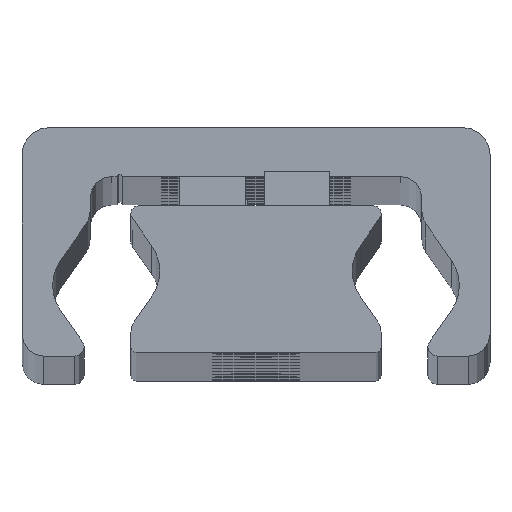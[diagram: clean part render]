
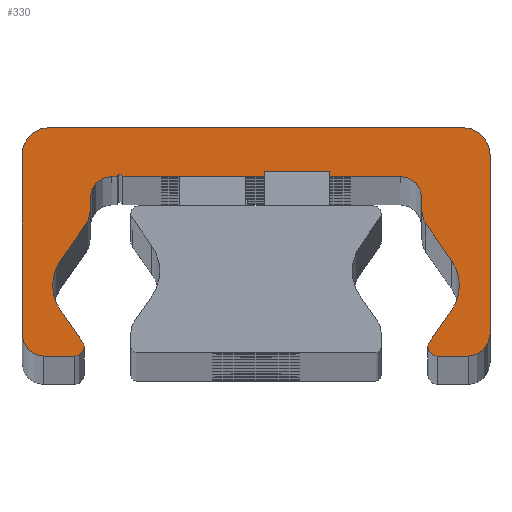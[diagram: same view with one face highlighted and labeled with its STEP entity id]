
A CAD part, top view. The second image highlights one B-rep face of the part: STEP entity #330.
In plain terms, the highlighted planar face has unit normal (0, 0, 1).
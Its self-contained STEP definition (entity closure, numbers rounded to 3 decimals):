
#330=ADVANCED_FACE('',(#944),#945,.T.);
#944=FACE_OUTER_BOUND('',#1559,.T.);
#945=PLANE('',#1560);
#1559=EDGE_LOOP('',(#3618,#3619,#3620,#3621,#3622,#3623,#3624,#3625,#3626,#3627,#3628,#3629,#3630,#3631,#3632,#3633,#3634,#3635,#3636,#3637,#3638,#3639,#3640,#3641,#3642,#3643,#3644,#3645,#3646,#3647));
#1560=AXIS2_PLACEMENT_3D('',#3648,#3649,#3650);
#3618=ORIENTED_EDGE('',*,*,#4049,.F.);
#3619=ORIENTED_EDGE('',*,*,#4342,.F.);
#3620=ORIENTED_EDGE('',*,*,#4035,.F.);
#3621=ORIENTED_EDGE('',*,*,#4341,.F.);
#3622=ORIENTED_EDGE('',*,*,#4337,.F.);
#3623=ORIENTED_EDGE('',*,*,#4334,.F.);
#3624=ORIENTED_EDGE('',*,*,#4331,.F.);
#3625=ORIENTED_EDGE('',*,*,#4328,.F.);
#3626=ORIENTED_EDGE('',*,*,#4325,.F.);
#3627=ORIENTED_EDGE('',*,*,#4322,.F.);
#3628=ORIENTED_EDGE('',*,*,#4319,.F.);
#3629=ORIENTED_EDGE('',*,*,#4316,.F.);
#3630=ORIENTED_EDGE('',*,*,#4313,.F.);
#3631=ORIENTED_EDGE('',*,*,#4310,.F.);
#3632=ORIENTED_EDGE('',*,*,#4041,.F.);
#3633=ORIENTED_EDGE('',*,*,#4308,.F.);
#3634=ORIENTED_EDGE('',*,*,#4043,.F.);
#3635=ORIENTED_EDGE('',*,*,#4307,.F.);
#3636=ORIENTED_EDGE('',*,*,#4303,.F.);
#3637=ORIENTED_EDGE('',*,*,#4300,.F.);
#3638=ORIENTED_EDGE('',*,*,#4297,.F.);
#3639=ORIENTED_EDGE('',*,*,#4294,.F.);
#3640=ORIENTED_EDGE('',*,*,#4291,.F.);
#3641=ORIENTED_EDGE('',*,*,#4288,.F.);
#3642=ORIENTED_EDGE('',*,*,#4285,.F.);
#3643=ORIENTED_EDGE('',*,*,#4282,.F.);
#3644=ORIENTED_EDGE('',*,*,#4279,.F.);
#3645=ORIENTED_EDGE('',*,*,#4276,.F.);
#3646=ORIENTED_EDGE('',*,*,#4273,.F.);
#3647=ORIENTED_EDGE('',*,*,#4270,.F.);
#3648=CARTESIAN_POINT('',(-0.023,14.187,732.0));
#3649=DIRECTION('',(0.0,0.0,1.0));
#3650=DIRECTION('',(1.0,0.0,0.0));
#4035=EDGE_CURVE('',#4902,#4905,#4906,.T.);
#4041=EDGE_CURVE('',#4915,#4911,#4917,.T.);
#4043=EDGE_CURVE('',#4918,#4921,#4922,.T.);
#4049=EDGE_CURVE('',#4931,#4927,#4933,.T.);
#4270=EDGE_CURVE('',#4927,#5288,#5289,.T.);
#4273=EDGE_CURVE('',#5288,#5293,#5294,.T.);
#4276=EDGE_CURVE('',#5293,#5298,#5299,.T.);
#4279=EDGE_CURVE('',#5298,#5303,#5304,.T.);
#4282=EDGE_CURVE('',#5303,#5308,#5309,.T.);
#4285=EDGE_CURVE('',#5308,#5313,#5314,.T.);
#4288=EDGE_CURVE('',#5313,#5318,#5319,.T.);
#4291=EDGE_CURVE('',#5318,#5323,#5324,.T.);
#4294=EDGE_CURVE('',#5323,#5328,#5329,.T.);
#4297=EDGE_CURVE('',#5328,#5333,#5334,.T.);
#4300=EDGE_CURVE('',#5333,#5338,#5339,.T.);
#4303=EDGE_CURVE('',#5338,#5343,#5344,.T.);
#4307=EDGE_CURVE('',#5343,#4918,#5349,.T.);
#4308=EDGE_CURVE('',#4921,#4915,#5350,.T.);
#4310=EDGE_CURVE('',#4911,#5352,#5353,.T.);
#4313=EDGE_CURVE('',#5352,#5357,#5358,.T.);
#4316=EDGE_CURVE('',#5357,#5362,#5363,.T.);
#4319=EDGE_CURVE('',#5362,#5367,#5368,.T.);
#4322=EDGE_CURVE('',#5367,#5372,#5373,.T.);
#4325=EDGE_CURVE('',#5372,#5377,#5378,.T.);
#4328=EDGE_CURVE('',#5377,#5382,#5383,.T.);
#4331=EDGE_CURVE('',#5382,#5387,#5388,.T.);
#4334=EDGE_CURVE('',#5387,#5392,#5393,.T.);
#4337=EDGE_CURVE('',#5392,#5397,#5398,.T.);
#4341=EDGE_CURVE('',#5397,#4902,#5403,.T.);
#4342=EDGE_CURVE('',#4905,#4931,#5404,.T.);
#4902=VERTEX_POINT('',#6138);
#4905=VERTEX_POINT('',#6142);
#4906=CIRCLE('',#6143,0.85);
#4911=VERTEX_POINT('',#6149);
#4915=VERTEX_POINT('',#6154);
#4917=CIRCLE('',#6157,0.85);
#4918=VERTEX_POINT('',#6158);
#4921=VERTEX_POINT('',#6162);
#4922=CIRCLE('',#6163,4.);
#4927=VERTEX_POINT('',#6169);
#4931=VERTEX_POINT('',#6174);
#4933=CIRCLE('',#6177,4.);
#5288=VERTEX_POINT('',#6634);
#5289=CIRCLE('',#6635,4.);
#5293=VERTEX_POINT('',#6640);
#5294=LINE('',#6641,#6642);
#5298=VERTEX_POINT('',#6648);
#5299=CIRCLE('',#6649,2.);
#5303=VERTEX_POINT('',#6654);
#5304=LINE('',#6655,#6656);
#5308=VERTEX_POINT('',#6662);
#5309=CIRCLE('',#6663,2.0);
#5313=VERTEX_POINT('',#6668);
#5314=LINE('',#6669,#6670);
#5318=VERTEX_POINT('',#6676);
#5319=CIRCLE('',#6677,0.25);
#5323=VERTEX_POINT('',#6682);
#5324=LINE('',#6683,#6684);
#5328=VERTEX_POINT('',#6690);
#5329=CIRCLE('',#6691,2.0);
#5333=VERTEX_POINT('',#6696);
#5334=LINE('',#6697,#6698);
#5338=VERTEX_POINT('',#6704);
#5339=CIRCLE('',#6705,2.0);
#5343=VERTEX_POINT('',#6710);
#5344=LINE('',#6711,#6712);
#5349=CIRCLE('',#6719,4.);
#5350=LINE('',#6720,#6721);
#5352=VERTEX_POINT('',#6724);
#5353=CIRCLE('',#6725,0.85);
#5357=VERTEX_POINT('',#6730);
#5358=LINE('',#6731,#6732);
#5362=VERTEX_POINT('',#6738);
#5363=CIRCLE('',#6739,2.);
#5367=VERTEX_POINT('',#6744);
#5368=LINE('',#6745,#6746);
#5372=VERTEX_POINT('',#6752);
#5373=CIRCLE('',#6753,2.5);
#5377=VERTEX_POINT('',#6758);
#5378=LINE('',#6759,#6760);
#5382=VERTEX_POINT('',#6766);
#5383=CIRCLE('',#6767,2.5);
#5387=VERTEX_POINT('',#6772);
#5388=LINE('',#6773,#6774);
#5392=VERTEX_POINT('',#6780);
#5393=CIRCLE('',#6781,2.);
#5397=VERTEX_POINT('',#6786);
#5398=LINE('',#6787,#6788);
#5403=CIRCLE('',#6795,0.85);
#5404=LINE('',#6796,#6797);
#6138=CARTESIAN_POINT('',(15.8,1.859,732.0));
#6142=CARTESIAN_POINT('',(15.922,2.298,732.0));
#6143=AXIS2_PLACEMENT_3D('',#7503,#7504,#7505);
#6149=CARTESIAN_POINT('',(-15.8,1.859,732.0));
#6154=CARTESIAN_POINT('',(-15.922,2.298,732.0));
#6157=AXIS2_PLACEMENT_3D('',#7515,#7516,#7517);
#6158=CARTESIAN_POINT('',(-18.688,7.509,732.0));
#6162=CARTESIAN_POINT('',(-17.964,5.214,732.0));
#6163=AXIS2_PLACEMENT_3D('',#7519,#7520,#7521);
#6169=CARTESIAN_POINT('',(18.688,7.509,732.0));
#6174=CARTESIAN_POINT('',(17.964,5.214,732.0));
#6177=AXIS2_PLACEMENT_3D('',#7531,#7532,#7533);
#6634=CARTESIAN_POINT('',(17.964,9.803,732.0));
#6635=AXIS2_PLACEMENT_3D('',#7990,#7991,#7992);
#6640=CARTESIAN_POINT('',(15.612,13.163,732.0));
#6641=CARTESIAN_POINT('',(15.612,13.163,732.0));
#6642=VECTOR('',#7997,1.0);
#6648=CARTESIAN_POINT('',(15.25,14.31,732.0));
#6649=AXIS2_PLACEMENT_3D('',#8000,#8001,#8002);
#6654=CARTESIAN_POINT('',(15.25,15.509,732.0));
#6655=CARTESIAN_POINT('',(15.25,15.509,732.0));
#6656=VECTOR('',#8007,1.0);
#6662=CARTESIAN_POINT('',(13.25,17.509,732.0));
#6663=AXIS2_PLACEMENT_3D('',#8010,#8011,#8012);
#6668=CARTESIAN_POINT('',(-12.25,17.509,732.0));
#6669=CARTESIAN_POINT('',(-12.25,17.509,732.0));
#6670=VECTOR('',#8017,1.0);
#6676=CARTESIAN_POINT('',(-12.75,17.509,732.0));
#6677=AXIS2_PLACEMENT_3D('',#8020,#8021,#8022);
#6682=CARTESIAN_POINT('',(-13.25,17.509,732.0));
#6683=CARTESIAN_POINT('',(-13.25,17.509,732.0));
#6684=VECTOR('',#8027,1.0);
#6690=CARTESIAN_POINT('',(-15.25,15.509,732.0));
#6691=AXIS2_PLACEMENT_3D('',#8030,#8031,#8032);
#6696=CARTESIAN_POINT('',(-15.25,14.31,732.0));
#6697=CARTESIAN_POINT('',(-15.25,14.31,732.0));
#6698=VECTOR('',#8037,1.0);
#6704=CARTESIAN_POINT('',(-15.612,13.163,732.0));
#6705=AXIS2_PLACEMENT_3D('',#8040,#8041,#8042);
#6710=CARTESIAN_POINT('',(-17.964,9.803,732.0));
#6711=CARTESIAN_POINT('',(-17.964,9.803,732.0));
#6712=VECTOR('',#8047,1.);
#6719=AXIS2_PLACEMENT_3D('',#8053,#8054,#8055);
#6720=CARTESIAN_POINT('',(-15.922,2.298,732.0));
#6721=VECTOR('',#8056,1.0);
#6724=CARTESIAN_POINT('',(-16.65,1.009,732.0));
#6725=AXIS2_PLACEMENT_3D('',#8058,#8059,#8060);
#6730=CARTESIAN_POINT('',(-19.5,1.009,732.0));
#6731=CARTESIAN_POINT('',(-19.5,1.009,732.0));
#6732=VECTOR('',#8065,1.0);
#6738=CARTESIAN_POINT('',(-21.5,3.009,732.0));
#6739=AXIS2_PLACEMENT_3D('',#8068,#8069,#8070);
#6744=CARTESIAN_POINT('',(-21.5,19.509,732.0));
#6745=CARTESIAN_POINT('',(-21.5,19.509,732.0));
#6746=VECTOR('',#8075,1.0);
#6752=CARTESIAN_POINT('',(-19.0,22.009,732.0));
#6753=AXIS2_PLACEMENT_3D('',#8078,#8079,#8080);
#6758=CARTESIAN_POINT('',(19.0,22.009,732.0));
#6759=CARTESIAN_POINT('',(19.0,22.009,732.0));
#6760=VECTOR('',#8085,1.0);
#6766=CARTESIAN_POINT('',(21.5,19.509,732.0));
#6767=AXIS2_PLACEMENT_3D('',#8088,#8089,#8090);
#6772=CARTESIAN_POINT('',(21.5,3.009,732.0));
#6773=CARTESIAN_POINT('',(21.5,3.009,732.0));
#6774=VECTOR('',#8095,1.0);
#6780=CARTESIAN_POINT('',(19.5,1.009,732.0));
#6781=AXIS2_PLACEMENT_3D('',#8098,#8099,#8100);
#6786=CARTESIAN_POINT('',(16.65,1.009,732.0));
#6787=CARTESIAN_POINT('',(16.65,1.009,732.0));
#6788=VECTOR('',#8105,1.0);
#6795=AXIS2_PLACEMENT_3D('',#8111,#8112,#8113);
#6796=CARTESIAN_POINT('',(17.964,5.214,732.0));
#6797=VECTOR('',#8114,1.0);
#7503=CARTESIAN_POINT('',(16.65,1.859,732.0));
#7504=DIRECTION('',(0.0,0.0,-1.0));
#7505=DIRECTION('',(1.0,0.0,0.0));
#7515=CARTESIAN_POINT('',(-16.65,1.859,732.0));
#7516=DIRECTION('',(0.0,0.0,-1.0));
#7517=DIRECTION('',(1.0,0.0,0.0));
#7519=CARTESIAN_POINT('',(-14.688,7.509,732.0));
#7520=DIRECTION('',(0.0,0.0,1.0));
#7521=DIRECTION('',(1.0,0.0,0.0));
#7531=CARTESIAN_POINT('',(14.688,7.509,732.0));
#7532=DIRECTION('',(0.0,0.0,1.0));
#7533=DIRECTION('',(1.0,0.0,0.0));
#7990=CARTESIAN_POINT('',(14.688,7.509,732.0));
#7991=DIRECTION('',(0.0,0.0,1.0));
#7992=DIRECTION('',(1.0,0.0,0.0));
#7997=DIRECTION('',(-0.574,0.819,0.0));
#8000=CARTESIAN_POINT('',(17.25,14.31,732.0));
#8001=DIRECTION('',(0.0,0.0,-1.0));
#8002=DIRECTION('',(1.0,0.0,0.0));
#8007=DIRECTION('',(0.0,1.0,0.0));
#8010=CARTESIAN_POINT('',(13.25,15.509,732.0));
#8011=DIRECTION('',(0.0,0.0,1.0));
#8012=DIRECTION('',(1.0,0.0,0.0));
#8017=DIRECTION('',(-1.0,-0.0,-0.0));
#8020=CARTESIAN_POINT('',(-12.5,17.509,732.0));
#8021=DIRECTION('',(0.0,0.0,1.0));
#8022=DIRECTION('',(1.0,0.0,0.0));
#8027=DIRECTION('',(-1.0,-0.0,-0.0));
#8030=CARTESIAN_POINT('',(-13.25,15.509,732.0));
#8031=DIRECTION('',(0.0,0.0,1.0));
#8032=DIRECTION('',(1.0,0.0,0.0));
#8037=DIRECTION('',(-0.0,-1.0,-0.0));
#8040=CARTESIAN_POINT('',(-17.25,14.31,732.0));
#8041=DIRECTION('',(0.0,0.0,-1.0));
#8042=DIRECTION('',(1.0,0.0,0.0));
#8047=DIRECTION('',(-0.574,-0.819,-0.0));
#8053=CARTESIAN_POINT('',(-14.688,7.509,732.0));
#8054=DIRECTION('',(0.0,0.0,1.0));
#8055=DIRECTION('',(1.0,0.0,0.0));
#8056=DIRECTION('',(0.574,-0.819,0.0));
#8058=CARTESIAN_POINT('',(-16.65,1.859,732.0));
#8059=DIRECTION('',(0.0,0.0,-1.0));
#8060=DIRECTION('',(1.0,0.0,0.0));
#8065=DIRECTION('',(-1.0,-0.0,-0.0));
#8068=CARTESIAN_POINT('',(-19.5,3.009,732.0));
#8069=DIRECTION('',(0.0,0.0,-1.0));
#8070=DIRECTION('',(1.0,0.0,0.0));
#8075=DIRECTION('',(0.0,1.0,0.0));
#8078=CARTESIAN_POINT('',(-19.0,19.509,732.0));
#8079=DIRECTION('',(0.0,0.0,-1.0));
#8080=DIRECTION('',(1.0,0.0,0.0));
#8085=DIRECTION('',(1.0,0.0,0.0));
#8088=CARTESIAN_POINT('',(19.0,19.509,732.0));
#8089=DIRECTION('',(0.0,0.0,-1.0));
#8090=DIRECTION('',(1.0,0.0,0.0));
#8095=DIRECTION('',(-0.0,-1.0,-0.0));
#8098=CARTESIAN_POINT('',(19.5,3.009,732.0));
#8099=DIRECTION('',(0.0,0.0,-1.0));
#8100=DIRECTION('',(1.0,0.0,0.0));
#8105=DIRECTION('',(-1.0,-0.0,-0.0));
#8111=CARTESIAN_POINT('',(16.65,1.859,732.0));
#8112=DIRECTION('',(0.0,0.0,-1.0));
#8113=DIRECTION('',(1.0,0.0,0.0));
#8114=DIRECTION('',(0.574,0.819,0.0));
